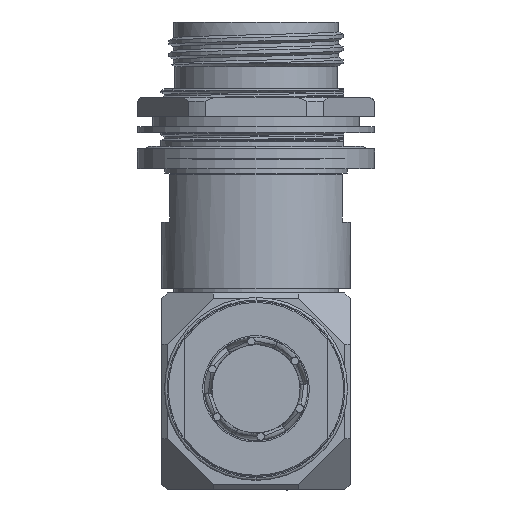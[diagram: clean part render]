
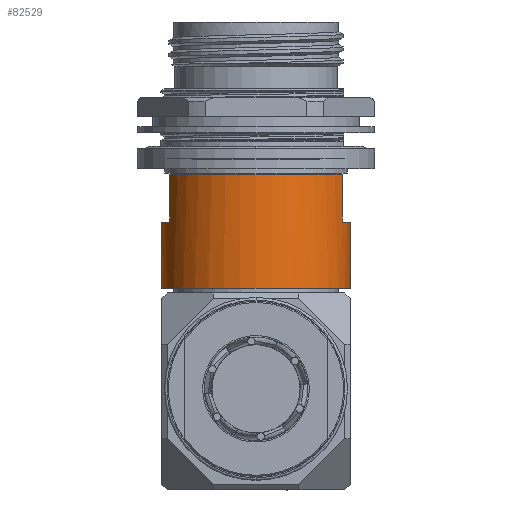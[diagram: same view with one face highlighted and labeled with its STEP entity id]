
A CAD part, front view. The second image highlights one B-rep face of the part: STEP entity #82529.
In plain terms, the highlighted cylindrical face has radius 18.86 mm (diameter 37.719 mm), a partial arc.
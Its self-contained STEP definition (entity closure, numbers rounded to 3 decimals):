
#553 = VECTOR ( 'NONE', #77602, 1000. ) ;
#2712 = CIRCLE ( 'NONE', #120129, 18.86 ) ;
#7065 = CARTESIAN_POINT ( 'NONE',  ( 0., 0., -30.328 ) ) ;
#8696 = CARTESIAN_POINT ( 'NONE',  ( -18.86, 0., -30.328 ) ) ;
#9275 = ORIENTED_EDGE ( 'NONE', *, *, #118130, .F. ) ;
#14960 = CARTESIAN_POINT ( 'NONE',  ( 0., 0., -39.853 ) ) ;
#16180 = CARTESIAN_POINT ( 'NONE',  ( 18.86, 0., -53.01 ) ) ;
#17087 = EDGE_CURVE ( 'NONE', #124598, #121457, #61598, .T. ) ;
#18413 = CIRCLE ( 'NONE', #66558, 18.86 ) ;
#18611 = CARTESIAN_POINT ( 'NONE',  ( 17.208, -7.717, -39.853 ) ) ;
#22841 = VERTEX_POINT ( 'NONE', #75653 ) ;
#23712 = CARTESIAN_POINT ( 'NONE',  ( -18.86, 0., -53.01 ) ) ;
#24496 = ORIENTED_EDGE ( 'NONE', *, *, #45065, .T. ) ;
#26817 = DIRECTION ( 'NONE',  ( 0., 0., -1. ) ) ;
#27457 = DIRECTION ( 'NONE',  ( 1., 0., 0. ) ) ;
#33319 = CARTESIAN_POINT ( 'NONE',  ( -17.208, -7.717, -30.328 ) ) ;
#33534 = DIRECTION ( 'NONE',  ( 1., 0., 0. ) ) ;
#34555 = CARTESIAN_POINT ( 'NONE',  ( 17.208, -7.717, -30.328 ) ) ;
#40098 = EDGE_CURVE ( 'NONE', #43598, #124598, #18413, .T. ) ;
#43111 = VERTEX_POINT ( 'NONE', #23712 ) ;
#43598 = VERTEX_POINT ( 'NONE', #96074 ) ;
#44228 = VERTEX_POINT ( 'NONE', #18611 ) ;
#45065 = EDGE_CURVE ( 'NONE', #46945, #121457, #88475, .T. ) ;
#46024 = CARTESIAN_POINT ( 'NONE',  ( 0., 0., -30.328 ) ) ;
#46199 = CARTESIAN_POINT ( 'NONE',  ( 18.859, 0., -30.328 ) ) ;
#46786 = ORIENTED_EDGE ( 'NONE', *, *, #40098, .F. ) ;
#46945 = VERTEX_POINT ( 'NONE', #34555 ) ;
#47110 = CYLINDRICAL_SURFACE ( 'NONE', #109831, 18.86 ) ;
#54994 = DIRECTION ( 'NONE',  ( 0., 0., 1. ) ) ;
#55059 = ORIENTED_EDGE ( 'NONE', *, *, #66402, .F. ) ;
#59157 = AXIS2_PLACEMENT_3D ( 'NONE', #46024, #107016, #96521 ) ;
#61598 = LINE ( 'NONE', #33319, #79095 ) ;
#61876 = DIRECTION ( 'NONE',  ( 0., 0., -1. ) ) ;
#62518 = LINE ( 'NONE', #102544, #103674 ) ;
#66162 = FACE_OUTER_BOUND ( 'NONE', #117500, .T. ) ;
#66402 = EDGE_CURVE ( 'NONE', #46945, #44228, #62518, .T. ) ;
#66524 = LINE ( 'NONE', #46199, #105728 ) ;
#66558 = AXIS2_PLACEMENT_3D ( 'NONE', #14960, #54994, #116011 ) ;
#67773 = LINE ( 'NONE', #8696, #553 ) ;
#68090 = DIRECTION ( 'NONE',  ( 0., 0., -1. ) ) ;
#74154 = VERTEX_POINT ( 'NONE', #16180 ) ;
#74220 = DIRECTION ( 'NONE',  ( 0., 0., 1. ) ) ;
#75653 = CARTESIAN_POINT ( 'NONE',  ( 18.86, 0., -39.853 ) ) ;
#76475 = ORIENTED_EDGE ( 'NONE', *, *, #112503, .F. ) ;
#77602 = DIRECTION ( 'NONE',  ( 0., 0., -1. ) ) ;
#79095 = VECTOR ( 'NONE', #101622, 1000. ) ;
#80694 = ORIENTED_EDGE ( 'NONE', *, *, #84735, .F. ) ;
#82529 = ADVANCED_FACE ( 'NONE', ( #66162 ), #47110, .T. ) ;
#84718 = CARTESIAN_POINT ( 'NONE',  ( 0., 0., -39.853 ) ) ;
#84735 = EDGE_CURVE ( 'NONE', #22841, #74154, #66524, .T. ) ;
#86535 = CARTESIAN_POINT ( 'NONE',  ( 0., 0., -53.01 ) ) ;
#87992 = ORIENTED_EDGE ( 'NONE', *, *, #17087, .F. ) ;
#88475 = CIRCLE ( 'NONE', #59157, 18.86 ) ;
#96074 = CARTESIAN_POINT ( 'NONE',  ( -18.86, 0., -39.853 ) ) ;
#96521 = DIRECTION ( 'NONE',  ( 1., 0., 0. ) ) ;
#101622 = DIRECTION ( 'NONE',  ( 0., 0., 1. ) ) ;
#102544 = CARTESIAN_POINT ( 'NONE',  ( 17.208, -7.717, -30.328 ) ) ;
#103674 = VECTOR ( 'NONE', #61876, 1000. ) ;
#105728 = VECTOR ( 'NONE', #126891, 1000. ) ;
#107016 = DIRECTION ( 'NONE',  ( 0., 0., -1. ) ) ;
#107196 = ORIENTED_EDGE ( 'NONE', *, *, #111693, .T. ) ;
#107612 = CARTESIAN_POINT ( 'NONE',  ( -17.209, -7.717, -39.853 ) ) ;
#108774 = DIRECTION ( 'NONE',  ( 1., 0., 0. ) ) ;
#109831 = AXIS2_PLACEMENT_3D ( 'NONE', #7065, #68090, #108774 ) ;
#111693 = EDGE_CURVE ( 'NONE', #43598, #43111, #67773, .T. ) ;
#112503 = EDGE_CURVE ( 'NONE', #44228, #22841, #2712, .T. ) ;
#116011 = DIRECTION ( 'NONE',  ( 0., 1., 0. ) ) ;
#117284 = CIRCLE ( 'NONE', #125636, 18.86 ) ;
#117500 = EDGE_LOOP ( 'NONE', ( #46786, #107196, #9275, #80694, #76475, #55059, #24496, #87992 ) ) ;
#118130 = EDGE_CURVE ( 'NONE', #74154, #43111, #117284, .T. ) ;
#120129 = AXIS2_PLACEMENT_3D ( 'NONE', #84718, #74220, #33534 ) ;
#121457 = VERTEX_POINT ( 'NONE', #124596 ) ;
#124596 = CARTESIAN_POINT ( 'NONE',  ( -17.209, -7.717, -30.328 ) ) ;
#124598 = VERTEX_POINT ( 'NONE', #107612 ) ;
#125636 = AXIS2_PLACEMENT_3D ( 'NONE', #86535, #26817, #27457 ) ;
#126891 = DIRECTION ( 'NONE',  ( 0., 0., -1. ) ) ;
